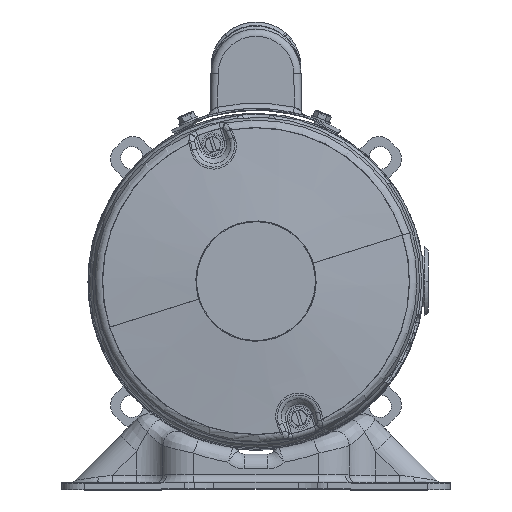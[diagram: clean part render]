
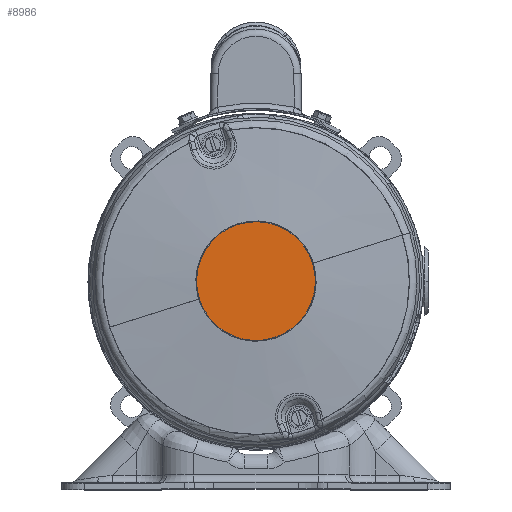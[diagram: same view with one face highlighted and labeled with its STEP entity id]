
A CAD part, top view. The second image highlights one B-rep face of the part: STEP entity #8986.
In plain terms, the highlighted planar face has unit normal (0, 0, 1).
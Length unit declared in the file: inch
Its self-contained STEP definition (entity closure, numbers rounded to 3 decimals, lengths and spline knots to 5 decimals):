
#8986 = ADVANCED_FACE ( 'NONE', ( #26114 ), #118257, .F. ) ;
#26114 = FACE_OUTER_BOUND ( 'NONE', #95800, .T. ) ;
#30337 = ORIENTED_EDGE ( 'NONE', *, *, #62995, .F. ) ;
#44013 = CARTESIAN_POINT ( 'NONE',  ( -0.00031, 0.00008, 12.69756 ) ) ;
#46695 = DIRECTION ( 'NONE',  ( 0., 0., -1. ) ) ;
#56158 = DIRECTION ( 'NONE',  ( 0.954, 0.301, 0. ) ) ;
#62995 = EDGE_CURVE ( 'NONE', #76863, #109672, #94862, .T. ) ;
#64350 = AXIS2_PLACEMENT_3D ( 'NONE', #130743, #118785, #119115 ) ;
#76429 = AXIS2_PLACEMENT_3D ( 'NONE', #44013, #128330, #56158 ) ;
#76863 = VERTEX_POINT ( 'NONE', #82156 ) ;
#78221 = ORIENTED_EDGE ( 'NONE', *, *, #89455, .F. ) ;
#82156 = CARTESIAN_POINT ( 'NONE',  ( -0.9479, -0.2987, 12.69756 ) ) ;
#89455 = EDGE_CURVE ( 'NONE', #109672, #76863, #134660, .T. ) ;
#94862 = CIRCLE ( 'NONE', #134755, 0.99358 ) ;
#95800 = EDGE_LOOP ( 'NONE', ( #78221, #30337 ) ) ;
#109672 = VERTEX_POINT ( 'NONE', #126171 ) ;
#118257 = PLANE ( 'NONE',  #64350 ) ;
#118785 = DIRECTION ( 'NONE',  ( 0., 0., -1. ) ) ;
#118922 = CARTESIAN_POINT ( 'NONE',  ( -0.00031, 0.00008, 12.69756 ) ) ;
#119115 = DIRECTION ( 'NONE',  ( 0.954, 0.301, 0. ) ) ;
#126171 = CARTESIAN_POINT ( 'NONE',  ( 0.94729, 0.29886, 12.69756 ) ) ;
#128330 = DIRECTION ( 'NONE',  ( 0., 0., -1. ) ) ;
#130743 = CARTESIAN_POINT ( 'NONE',  ( 0.29847, -0.94752, 12.69756 ) ) ;
#131069 = DIRECTION ( 'NONE',  ( 0.954, 0.301, 0. ) ) ;
#134660 = CIRCLE ( 'NONE', #76429, 0.99358 ) ;
#134755 = AXIS2_PLACEMENT_3D ( 'NONE', #118922, #46695, #131069 ) ;
